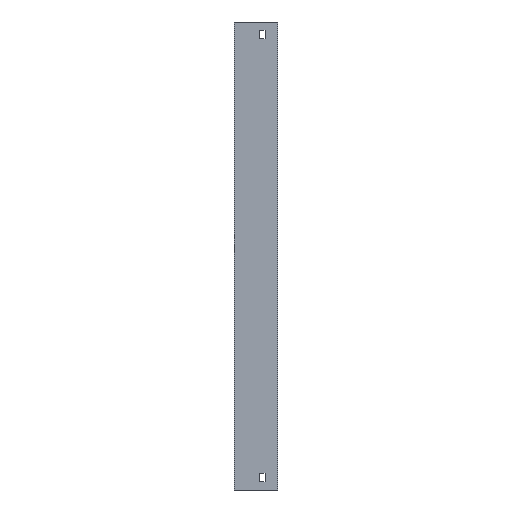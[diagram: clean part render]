
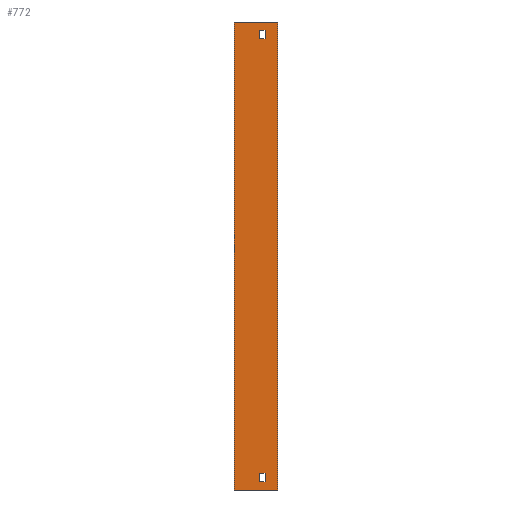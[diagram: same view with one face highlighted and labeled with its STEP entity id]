
A CAD part, left-side view. The second image highlights one B-rep face of the part: STEP entity #772.
In plain terms, the highlighted planar face has unit normal (-1, 0, 0).
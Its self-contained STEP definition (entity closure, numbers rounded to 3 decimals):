
#15 = LINE ( 'NONE', #1222, #967 ) ;
#20 = LINE ( 'NONE', #1358, #164 ) ;
#52 = VECTOR ( 'NONE', #914, 1000. ) ;
#54 = ORIENTED_EDGE ( 'NONE', *, *, #698, .F. ) ;
#79 = VERTEX_POINT ( 'NONE', #232 ) ;
#82 = AXIS2_PLACEMENT_3D ( 'NONE', #1153, #705, #1600 ) ;
#145 = CARTESIAN_POINT ( 'NONE',  ( -404., 0., -534. ) ) ;
#154 = EDGE_CURVE ( 'NONE', #1932, #193, #1133, .T. ) ;
#155 = DIRECTION ( 'NONE',  ( 0., 1., 0. ) ) ;
#164 = VECTOR ( 'NONE', #1658, 1000. ) ;
#185 = CARTESIAN_POINT ( 'NONE',  ( -404., 52., -534. ) ) ;
#191 = DIRECTION ( 'NONE',  ( 0., 0., 1. ) ) ;
#193 = VERTEX_POINT ( 'NONE', #944 ) ;
#198 = ORIENTED_EDGE ( 'NONE', *, *, #1445, .F. ) ;
#226 = CARTESIAN_POINT ( 'NONE',  ( -404., 22., 10. ) ) ;
#232 = CARTESIAN_POINT ( 'NONE',  ( -404., 15., 10. ) ) ;
#265 = VECTOR ( 'NONE', #155, 1000. ) ;
#289 = VERTEX_POINT ( 'NONE', #1776 ) ;
#293 = VERTEX_POINT ( 'NONE', #145 ) ;
#302 = VECTOR ( 'NONE', #1682, 1000. ) ;
#327 = VECTOR ( 'NONE', #1802, 1000. ) ;
#328 = LINE ( 'NONE', #1833, #911 ) ;
#330 = CARTESIAN_POINT ( 'NONE',  ( -404., 15., -514. ) ) ;
#333 = EDGE_CURVE ( 'NONE', #733, #1402, #328, .T. ) ;
#414 = VECTOR ( 'NONE', #1342, 1000. ) ;
#416 = EDGE_CURVE ( 'NONE', #293, #1551, #777, .T. ) ;
#421 = VERTEX_POINT ( 'NONE', #1244 ) ;
#465 = EDGE_CURVE ( 'NONE', #79, #1932, #1503, .T. ) ;
#466 = VECTOR ( 'NONE', #1588, 1000. ) ;
#477 = EDGE_LOOP ( 'NONE', ( #1227, #1008, #1570, #1615 ) ) ;
#478 = LINE ( 'NONE', #1686, #1450 ) ;
#493 = LINE ( 'NONE', #1082, #302 ) ;
#557 = DIRECTION ( 'NONE',  ( 0., 0., -1. ) ) ;
#558 = CARTESIAN_POINT ( 'NONE',  ( -404., 22., -524. ) ) ;
#592 = EDGE_LOOP ( 'NONE', ( #650, #54, #607, #759 ) ) ;
#607 = ORIENTED_EDGE ( 'NONE', *, *, #848, .F. ) ;
#635 = CARTESIAN_POINT ( 'NONE',  ( -404., 0., -534. ) ) ;
#650 = ORIENTED_EDGE ( 'NONE', *, *, #416, .T. ) ;
#696 = LINE ( 'NONE', #1308, #1130 ) ;
#698 = EDGE_CURVE ( 'NONE', #1737, #1551, #942, .T. ) ;
#705 = DIRECTION ( 'NONE',  ( 1., 0., 0. ) ) ;
#721 = CARTESIAN_POINT ( 'NONE',  ( -404., 22., -514. ) ) ;
#733 = VERTEX_POINT ( 'NONE', #330 ) ;
#752 = LINE ( 'NONE', #185, #414 ) ;
#759 = ORIENTED_EDGE ( 'NONE', *, *, #1190, .T. ) ;
#761 = VERTEX_POINT ( 'NONE', #1559 ) ;
#772 = ADVANCED_FACE ( 'NONE', ( #1864, #1120, #1900 ), #1755, .F. ) ;
#777 = LINE ( 'NONE', #635, #1767 ) ;
#787 = DIRECTION ( 'NONE',  ( 0., 0., 1. ) ) ;
#798 = LINE ( 'NONE', #558, #466 ) ;
#848 = EDGE_CURVE ( 'NONE', #289, #1737, #752, .T. ) ;
#891 = CARTESIAN_POINT ( 'NONE',  ( -404., 22., 20. ) ) ;
#895 = EDGE_CURVE ( 'NONE', #1402, #761, #15, .T. ) ;
#908 = ORIENTED_EDGE ( 'NONE', *, *, #895, .F. ) ;
#911 = VECTOR ( 'NONE', #920, 1000. ) ;
#912 = CARTESIAN_POINT ( 'NONE',  ( -404., 15., -524. ) ) ;
#914 = DIRECTION ( 'NONE',  ( 0., -1., 0. ) ) ;
#920 = DIRECTION ( 'NONE',  ( 0., 1., 0. ) ) ;
#931 = CARTESIAN_POINT ( 'NONE',  ( -404., 52., 30. ) ) ;
#942 = LINE ( 'NONE', #931, #52 ) ;
#944 = CARTESIAN_POINT ( 'NONE',  ( -404., 22., 20. ) ) ;
#967 = VECTOR ( 'NONE', #1075, 1000. ) ;
#1008 = ORIENTED_EDGE ( 'NONE', *, *, #1160, .T. ) ;
#1009 = CARTESIAN_POINT ( 'NONE',  ( -404., 0., 30. ) ) ;
#1010 = EDGE_CURVE ( 'NONE', #761, #1536, #798, .T. ) ;
#1075 = DIRECTION ( 'NONE',  ( 0., 0., -1. ) ) ;
#1082 = CARTESIAN_POINT ( 'NONE',  ( -404., 52., -534. ) ) ;
#1120 = FACE_BOUND ( 'NONE', #477, .T. ) ;
#1130 = VECTOR ( 'NONE', #557, 1000. ) ;
#1133 = LINE ( 'NONE', #891, #327 ) ;
#1153 = CARTESIAN_POINT ( 'NONE',  ( -404., 52., -534. ) ) ;
#1160 = EDGE_CURVE ( 'NONE', #193, #421, #20, .T. ) ;
#1190 = EDGE_CURVE ( 'NONE', #289, #293, #493, .T. ) ;
#1222 = CARTESIAN_POINT ( 'NONE',  ( -404., 22., -524. ) ) ;
#1227 = ORIENTED_EDGE ( 'NONE', *, *, #154, .T. ) ;
#1244 = CARTESIAN_POINT ( 'NONE',  ( -404., 15., 20. ) ) ;
#1308 = CARTESIAN_POINT ( 'NONE',  ( -404., 15., 20. ) ) ;
#1342 = DIRECTION ( 'NONE',  ( 0., 0., 1. ) ) ;
#1346 = CARTESIAN_POINT ( 'NONE',  ( -404., 22., 10. ) ) ;
#1358 = CARTESIAN_POINT ( 'NONE',  ( -404., 22., 20. ) ) ;
#1402 = VERTEX_POINT ( 'NONE', #721 ) ;
#1437 = ORIENTED_EDGE ( 'NONE', *, *, #333, .F. ) ;
#1445 = EDGE_CURVE ( 'NONE', #1536, #733, #478, .T. ) ;
#1450 = VECTOR ( 'NONE', #787, 1000. ) ;
#1503 = LINE ( 'NONE', #1346, #265 ) ;
#1536 = VERTEX_POINT ( 'NONE', #912 ) ;
#1551 = VERTEX_POINT ( 'NONE', #1009 ) ;
#1554 = EDGE_LOOP ( 'NONE', ( #1591, #908, #1437, #198 ) ) ;
#1559 = CARTESIAN_POINT ( 'NONE',  ( -404., 22., -524. ) ) ;
#1570 = ORIENTED_EDGE ( 'NONE', *, *, #1835, .T. ) ;
#1588 = DIRECTION ( 'NONE',  ( 0., -1., 0. ) ) ;
#1591 = ORIENTED_EDGE ( 'NONE', *, *, #1010, .F. ) ;
#1600 = DIRECTION ( 'NONE',  ( 0., 0., -1. ) ) ;
#1615 = ORIENTED_EDGE ( 'NONE', *, *, #465, .T. ) ;
#1658 = DIRECTION ( 'NONE',  ( 0., -1., 0. ) ) ;
#1682 = DIRECTION ( 'NONE',  ( 0., -1., 0. ) ) ;
#1686 = CARTESIAN_POINT ( 'NONE',  ( -404., 15., -524. ) ) ;
#1737 = VERTEX_POINT ( 'NONE', #1903 ) ;
#1755 = PLANE ( 'NONE',  #82 ) ;
#1767 = VECTOR ( 'NONE', #191, 1000. ) ;
#1776 = CARTESIAN_POINT ( 'NONE',  ( -404., 52., -534. ) ) ;
#1802 = DIRECTION ( 'NONE',  ( 0., 0., 1. ) ) ;
#1833 = CARTESIAN_POINT ( 'NONE',  ( -404., 22., -514. ) ) ;
#1835 = EDGE_CURVE ( 'NONE', #421, #79, #696, .T. ) ;
#1864 = FACE_OUTER_BOUND ( 'NONE', #592, .T. ) ;
#1900 = FACE_BOUND ( 'NONE', #1554, .T. ) ;
#1903 = CARTESIAN_POINT ( 'NONE',  ( -404., 52., 30. ) ) ;
#1932 = VERTEX_POINT ( 'NONE', #226 ) ;
